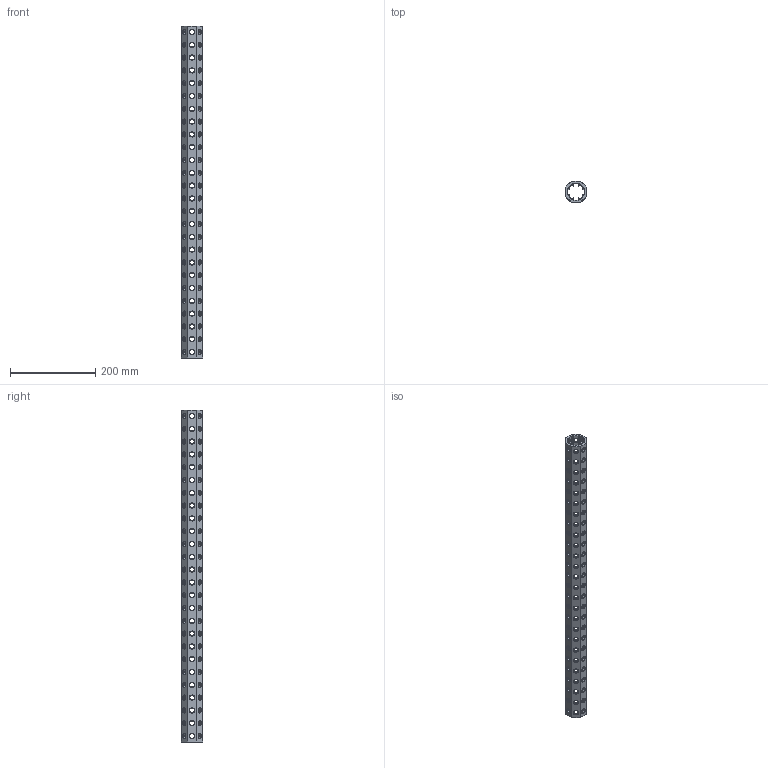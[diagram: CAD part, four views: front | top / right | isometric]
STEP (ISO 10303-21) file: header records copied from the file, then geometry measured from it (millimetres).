
FILE_DESCRIPTION(('CATIA V5 STEP Exchange'),'2;1');
FILE_NAME('U:\Room\唐宝山\EGT002\46-01-010255-01-EGT002-778.stp','2021-08-24T01:07:45+00:00',('none'),('none'),'CATIA Version 5 Release 21 GA (IN-10)','CATIA V5 STEP AP203','none');
FILE_SCHEMA(('CONFIG_CONTROL_DESIGN'));
Products named in the file (1): 46-01-010255-01-EGT002-778
Bounding box: 50 x 50 x 778 mm (x, y, z)
Volume: 554158.9 mm3; surface area: 268268.8 mm2
Topology: 1 solids, 1 shells, 1124 faces, 3106 edges, 1932 vertices
Faces by surface type: cone 624, cylinder 474, plane 26
Entity records: 45947 total; most frequent: CARTESIAN_POINT 18716, ORIENTED_EDGE 6212, DIRECTION 4361, EDGE_CURVE 3106, AXIS2_PLACEMENT_3D 2016, VERTEX_POINT 1932, EDGE_LOOP 1490, VECTOR 1222
